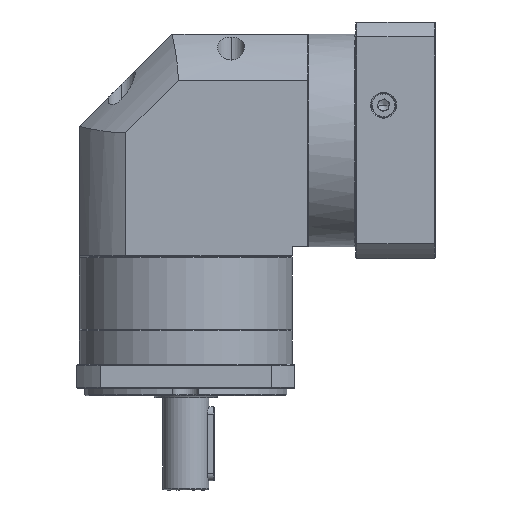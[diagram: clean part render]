
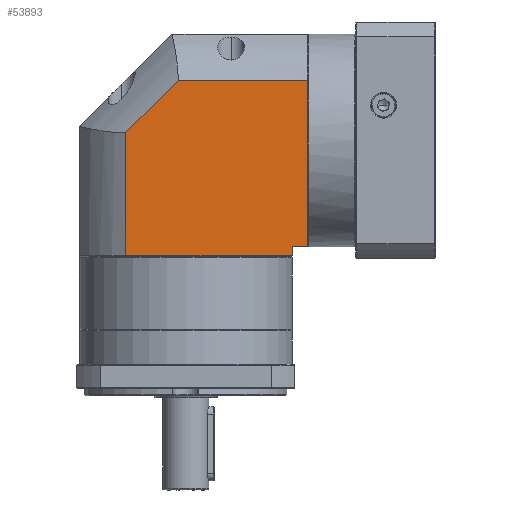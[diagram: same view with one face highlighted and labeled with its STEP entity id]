
A CAD part, front view. The second image highlights one B-rep face of the part: STEP entity #53893.
In plain terms, the highlighted planar face has unit normal (0, -1, 0).
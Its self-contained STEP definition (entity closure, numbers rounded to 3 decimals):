
#115 = CARTESIAN_POINT ( 'NONE',  ( 108.053, 27.021, -29.253 ) ) ;
#120 = CARTESIAN_POINT ( 'NONE',  ( 108.053, 27.021, -34.253 ) ) ;
#3928 = DIRECTION ( 'NONE',  ( 1., 0., 0. ) ) ;
#4494 = ORIENTED_EDGE ( 'NONE', *, *, #102764, .F. ) ;
#7174 = DIRECTION ( 'NONE',  ( -1., 0., 0. ) ) ;
#7674 = VERTEX_POINT ( 'NONE', #120 ) ;
#9874 = EDGE_CURVE ( 'NONE', #115886, #128287, #39707, .T. ) ;
#10962 = LINE ( 'NONE', #29698, #80430 ) ;
#12373 = DIRECTION ( 'NONE',  ( 0., 0., -1. ) ) ;
#14663 = EDGE_CURVE ( 'NONE', #62647, #115886, #33291, .T. ) ;
#17726 = DIRECTION ( 'NONE',  ( 0.707, 0., 0.707 ) ) ;
#19719 = ORIENTED_EDGE ( 'NONE', *, *, #14663, .F. ) ;
#26695 = VECTOR ( 'NONE', #17726, 1000. ) ;
#27769 = EDGE_CURVE ( 'NONE', #37521, #81402, #120893, .T. ) ;
#29698 = CARTESIAN_POINT ( 'NONE',  ( -6.947, 27.021, -29.253 ) ) ;
#33291 = LINE ( 'NONE', #34048, #67159 ) ;
#33353 = ORIENTED_EDGE ( 'NONE', *, *, #42198, .F. ) ;
#34048 = CARTESIAN_POINT ( 'NONE',  ( 18.153, 27.021, -40.753 ) ) ;
#35400 = CARTESIAN_POINT ( 'NONE',  ( 116.453, 27.021, -40.753 ) ) ;
#36215 = EDGE_LOOP ( 'NONE', ( #33353, #44097, #123186, #4494, #73780, #19719, #44617 ) ) ;
#37521 = VERTEX_POINT ( 'NONE', #103406 ) ;
#37728 = CARTESIAN_POINT ( 'NONE',  ( 46.491, 27.021, 60.646 ) ) ;
#39707 = LINE ( 'NONE', #89621, #26695 ) ;
#42198 = EDGE_CURVE ( 'NONE', #63299, #7674, #70353, .T. ) ;
#44097 = ORIENTED_EDGE ( 'NONE', *, *, #77005, .F. ) ;
#44617 = ORIENTED_EDGE ( 'NONE', *, *, #50954, .F. ) ;
#50954 = EDGE_CURVE ( 'NONE', #7674, #62647, #63069, .T. ) ;
#53893 = ADVANCED_FACE ( 'NONE', ( #59565 ), #116953, .F. ) ;
#59565 = FACE_OUTER_BOUND ( 'NONE', #36215, .T. ) ;
#59616 = CARTESIAN_POINT ( 'NONE',  ( 116.453, 27.021, -29.253 ) ) ;
#59710 = CARTESIAN_POINT ( 'NONE',  ( -6.947, 27.021, -34.253 ) ) ;
#62647 = VERTEX_POINT ( 'NONE', #92025 ) ;
#63069 = LINE ( 'NONE', #59710, #105234 ) ;
#63299 = VERTEX_POINT ( 'NONE', #115 ) ;
#64715 = CARTESIAN_POINT ( 'NONE',  ( 108.053, 27.021, -40.753 ) ) ;
#64796 = DIRECTION ( 'NONE',  ( 0., 1., 0. ) ) ;
#67159 = VECTOR ( 'NONE', #127263, 1000. ) ;
#70353 = LINE ( 'NONE', #64715, #132026 ) ;
#73780 = ORIENTED_EDGE ( 'NONE', *, *, #9874, .F. ) ;
#74802 = CARTESIAN_POINT ( 'NONE',  ( -6.947, 27.021, -40.753 ) ) ;
#77005 = EDGE_CURVE ( 'NONE', #81402, #63299, #10962, .T. ) ;
#80430 = VECTOR ( 'NONE', #7174, 1000. ) ;
#81172 = CARTESIAN_POINT ( 'NONE',  ( 18.153, 27.021, 32.308 ) ) ;
#81402 = VERTEX_POINT ( 'NONE', #59616 ) ;
#85829 = VECTOR ( 'NONE', #131595, 1000. ) ;
#89621 = CARTESIAN_POINT ( 'NONE',  ( 18.153, 27.021, 32.308 ) ) ;
#92025 = CARTESIAN_POINT ( 'NONE',  ( 18.153, 27.021, -34.253 ) ) ;
#92306 = DIRECTION ( 'NONE',  ( -1., 0., 0. ) ) ;
#102764 = EDGE_CURVE ( 'NONE', #128287, #37521, #121592, .T. ) ;
#103406 = CARTESIAN_POINT ( 'NONE',  ( 116.453, 27.021, 60.646 ) ) ;
#105234 = VECTOR ( 'NONE', #92306, 1000. ) ;
#107320 = DIRECTION ( 'NONE',  ( 0., 0., -1. ) ) ;
#108508 = AXIS2_PLACEMENT_3D ( 'NONE', #74802, #64796, #3928 ) ;
#109841 = CARTESIAN_POINT ( 'NONE',  ( -6.947, 27.021, 60.646 ) ) ;
#115886 = VERTEX_POINT ( 'NONE', #81172 ) ;
#116953 = PLANE ( 'NONE',  #108508 ) ;
#117658 = VECTOR ( 'NONE', #107320, 1000. ) ;
#120893 = LINE ( 'NONE', #35400, #117658 ) ;
#121592 = LINE ( 'NONE', #109841, #85829 ) ;
#123186 = ORIENTED_EDGE ( 'NONE', *, *, #27769, .F. ) ;
#127263 = DIRECTION ( 'NONE',  ( 0., 0., 1. ) ) ;
#128287 = VERTEX_POINT ( 'NONE', #37728 ) ;
#131595 = DIRECTION ( 'NONE',  ( 1., 0., 0. ) ) ;
#132026 = VECTOR ( 'NONE', #12373, 1000. ) ;
